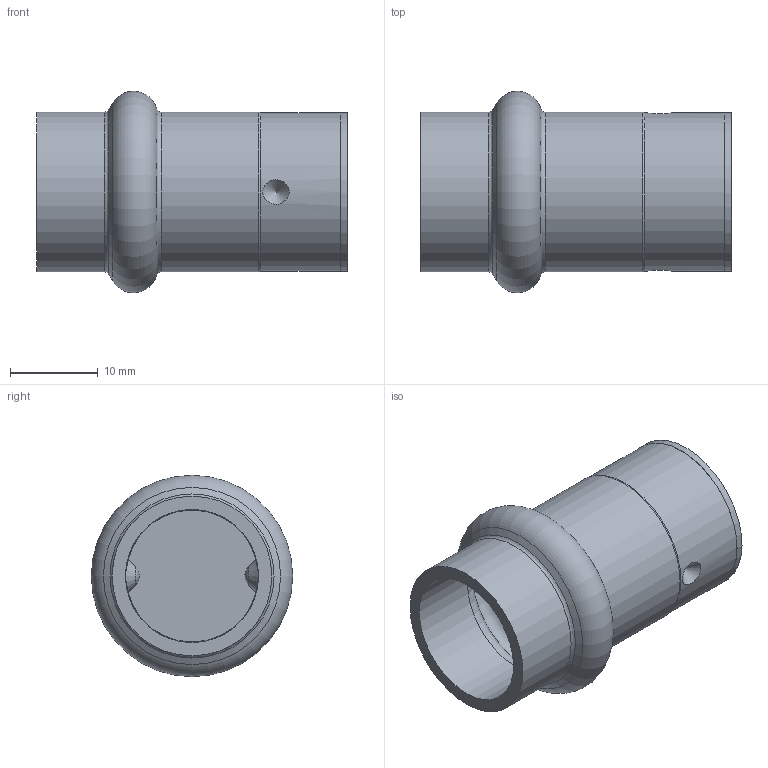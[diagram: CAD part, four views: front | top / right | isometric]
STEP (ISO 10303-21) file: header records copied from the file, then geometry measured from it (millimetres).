
FILE_DESCRIPTION((''),'2;1');
FILE_NAME('G:\Nirosan-Schmiedefeld\Technics\CAD\Bauteile VA\015\6930115(4).stp','2011-10-26T11:56:47',('herberg'),(''),'Autodesk Inventor 2009','Autodesk Inventor 2009','');
FILE_SCHEMA(('AUTOMOTIVE_DESIGN { 1 0 10303 214 1 1 1 1 }'));
Length unit declared in the file: millimetre
Products named in the file (3): 6930115(4); HM_692431815(0); D_6930118(1)
Assembly tree (2 placements, depth 2):
  6930115(4)
    HM_692431815(0)
    D_6930118(1)
Bounding box: 35.3 x 22.9 x 22.9 mm (x, y, z)
Volume: 3182.7 mm3; surface area: 4682 mm2
Topology: 2 solids, 2 shells, 27 faces, 62 edges, 38 vertices
Faces by surface type: cone 8, cylinder 7, bspline 4, plane 4, sphere 2, torus 2
Full cylindrical faces by diameter (mm): 15 x1, 15.15 x2, 18 x2, 18.15 x2
Entity records: 1042 total; most frequent: CARTESIAN_POINT 505, DIRECTION 102, ORIENTED_EDGE 62, AXIS2_PLACEMENT_3D 51, EDGE_LOOP 50, EDGE_CURVE 31, VERTEX_POINT 29, FACE_OUTER_BOUND 27
